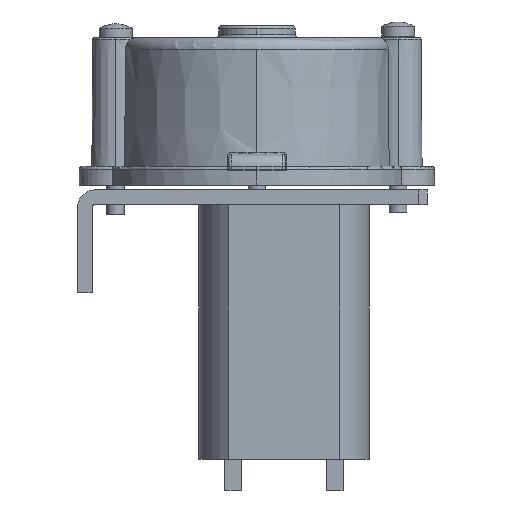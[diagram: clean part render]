
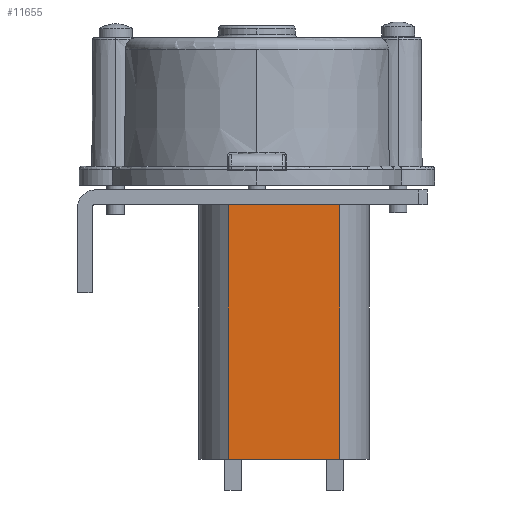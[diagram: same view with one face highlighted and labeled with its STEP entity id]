
A CAD part, front view. The second image highlights one B-rep face of the part: STEP entity #11655.
In plain terms, the highlighted planar face has unit normal (0, -1, 0).
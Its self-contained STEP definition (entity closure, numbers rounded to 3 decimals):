
#1227 = CARTESIAN_POINT ( 'NONE',  ( 17.486, -31.743, 0. ) ) ;
#1327 = AXIS2_PLACEMENT_3D ( 'NONE', #12785, #9530, #4386 ) ;
#1407 = VECTOR ( 'NONE', #17340, 1000. ) ;
#1463 = ORIENTED_EDGE ( 'NONE', *, *, #15830, .F. ) ;
#2458 = ORIENTED_EDGE ( 'NONE', *, *, #18431, .T. ) ;
#2548 = CARTESIAN_POINT ( 'NONE',  ( 0., -31.743, 43.3 ) ) ;
#2673 = FACE_OUTER_BOUND ( 'NONE', #13255, .T. ) ;
#3194 = VERTEX_POINT ( 'NONE', #8954 ) ;
#4244 = PLANE ( 'NONE',  #1327 ) ;
#4305 = LINE ( 'NONE', #18646, #15229 ) ;
#4386 = DIRECTION ( 'NONE',  ( 0., 0., -1. ) ) ;
#5918 = LINE ( 'NONE', #12346, #1407 ) ;
#7436 = CARTESIAN_POINT ( 'NONE',  ( -1.514, -31.743, 0. ) ) ;
#7587 = LINE ( 'NONE', #7436, #8390 ) ;
#8243 = VERTEX_POINT ( 'NONE', #10803 ) ;
#8376 = LINE ( 'NONE', #2548, #20121 ) ;
#8390 = VECTOR ( 'NONE', #16021, 1000. ) ;
#8642 = EDGE_CURVE ( 'NONE', #3194, #15086, #5918, .T. ) ;
#8694 = ORIENTED_EDGE ( 'NONE', *, *, #20367, .T. ) ;
#8954 = CARTESIAN_POINT ( 'NONE',  ( 17.486, -31.743, 43.3 ) ) ;
#9378 = DIRECTION ( 'NONE',  ( 1., 0., 0. ) ) ;
#9530 = DIRECTION ( 'NONE',  ( 0., -1., 0. ) ) ;
#10803 = CARTESIAN_POINT ( 'NONE',  ( -1.514, -31.743, 43.3 ) ) ;
#11655 = ADVANCED_FACE ( 'NONE', ( #2673 ), #4244, .T. ) ;
#12346 = CARTESIAN_POINT ( 'NONE',  ( 17.486, -31.743, 43.3 ) ) ;
#12785 = CARTESIAN_POINT ( 'NONE',  ( 22.486, -31.743, 0. ) ) ;
#13255 = EDGE_LOOP ( 'NONE', ( #8694, #2458, #18264, #1463 ) ) ;
#13746 = CARTESIAN_POINT ( 'NONE',  ( -1.514, -31.743, 0. ) ) ;
#15086 = VERTEX_POINT ( 'NONE', #1227 ) ;
#15167 = DIRECTION ( 'NONE',  ( 1., 0., 0. ) ) ;
#15229 = VECTOR ( 'NONE', #15167, 1000. ) ;
#15830 = EDGE_CURVE ( 'NONE', #8243, #3194, #8376, .T. ) ;
#16021 = DIRECTION ( 'NONE',  ( 0., 0., -1. ) ) ;
#17340 = DIRECTION ( 'NONE',  ( 0., 0., -1. ) ) ;
#18264 = ORIENTED_EDGE ( 'NONE', *, *, #8642, .F. ) ;
#18431 = EDGE_CURVE ( 'NONE', #19678, #15086, #4305, .T. ) ;
#18646 = CARTESIAN_POINT ( 'NONE',  ( 22.486, -31.743, 0. ) ) ;
#19678 = VERTEX_POINT ( 'NONE', #13746 ) ;
#20121 = VECTOR ( 'NONE', #9378, 1000. ) ;
#20367 = EDGE_CURVE ( 'NONE', #8243, #19678, #7587, .T. ) ;
